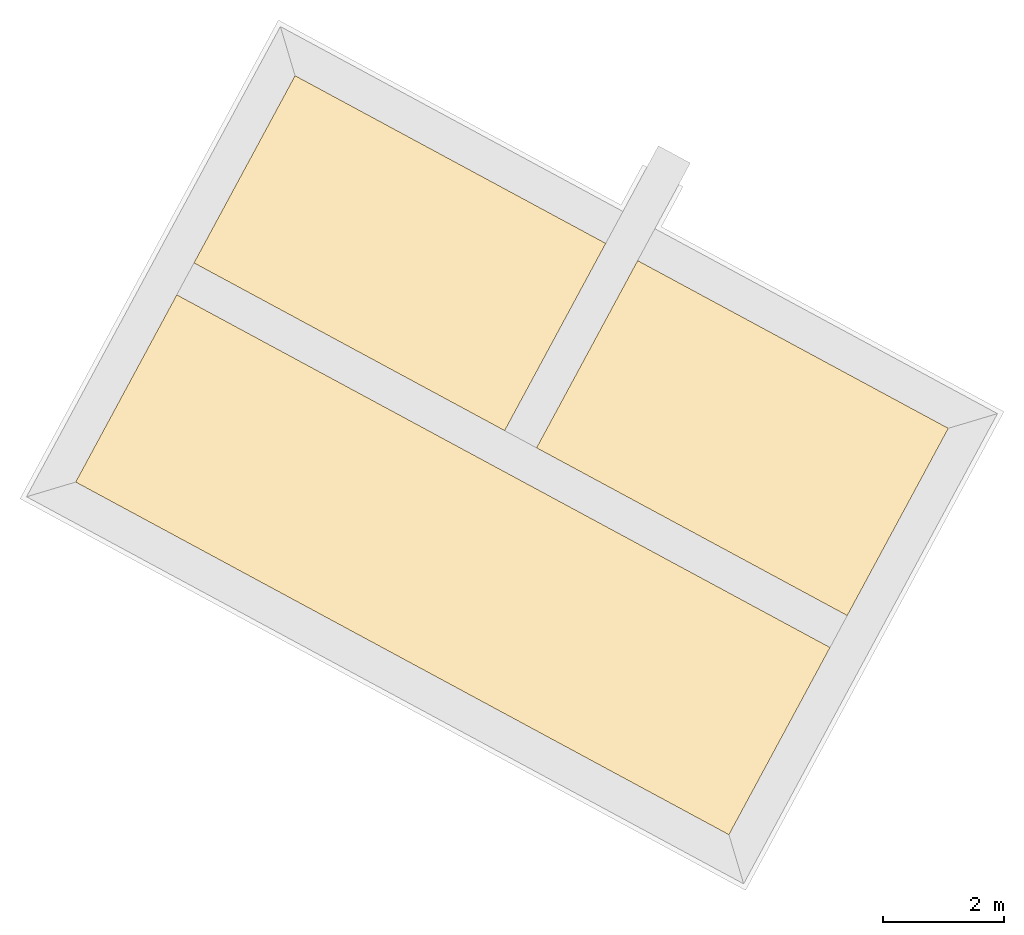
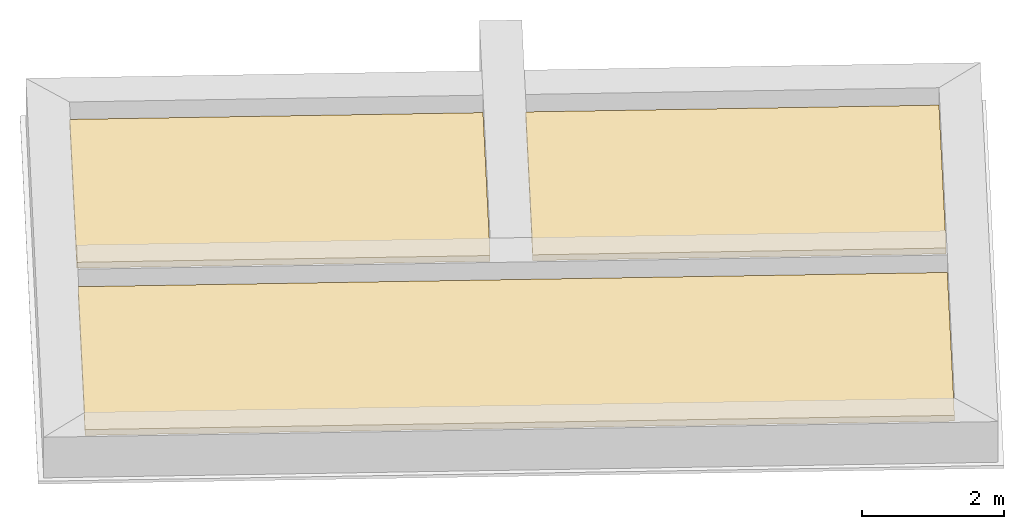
# One storey, part 3 of 3: 3 coverings.
"""IFC2X3 building model written with IfcOpenShell, lengths in metres."""

from ifc_helpers import new_model, entity, si_unit, converted_unit, derived_unit, money_unit, direction, frame, origin_with_axes, place, context, subcontext, project, spatial, faceted_brep, material, type_object, element, save


model = new_model("IFC2X3")

# Units and contexts
model_context = context("Model", 3, precision=1e-05, world=origin_with_axes(), true_north=direction((0.0, 1.0)))
body_context = subcontext(model_context, "Body", "Model", "MODEL_VIEW")
ifc_project = project(units=[si_unit("LENGTHUNIT", "METRE"), si_unit("AREAUNIT", "SQUARE_METRE"), si_unit("VOLUMEUNIT", "CUBIC_METRE"), converted_unit("PLANEANGLEUNIT", "DEGREE", entity("IfcPlaneAngleMeasure", 0.0174532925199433), si_unit("PLANEANGLEUNIT", "RADIAN"), dimensions=[0, 0, 0, 0, 0, 0, 0]), money_unit("EUR"), converted_unit("TIMEUNIT", "Year", entity("IfcTimeMeasure", 31556926.0), si_unit("TIMEUNIT", "SECOND"), dimensions=[0, 0, 1, 0, 0, 0, 0]), si_unit("MASSUNIT", "GRAM", prefix="KILO"), si_unit("THERMODYNAMICTEMPERATUREUNIT", "DEGREE_CELSIUS"), si_unit("LUMINOUSINTENSITYUNIT", "LUMEN"), si_unit("ENERGYUNIT", "JOULE", prefix="MEGA"), derived_unit("THERMALCONDUCTANCEUNIT", [(si_unit("POWERUNIT", "WATT"), 1), (si_unit("LENGTHUNIT", "METRE"), -1), (si_unit("THERMODYNAMICTEMPERATUREUNIT", "KELVIN"), -1)]), derived_unit("SPECIFICHEATCAPACITYUNIT", [(si_unit("ENERGYUNIT", "JOULE"), 1), (si_unit("MASSUNIT", "GRAM", prefix="KILO"), -1), (si_unit("THERMODYNAMICTEMPERATUREUNIT", "KELVIN"), -1)]), derived_unit("MASSDENSITYUNIT", [(si_unit("MASSUNIT", "GRAM", prefix="KILO"), 1), (si_unit("VOLUMEUNIT", "CUBIC_METRE"), -1)])], contexts=[model_context])

# Site, building, storey
site_placement = place(None, frame((-3.949935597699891, 1.740105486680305, 0.0), z_axis=(0.0, 0.0, 1.0), x_axis=(0.8799804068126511, -0.475009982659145, 0.0)))
site = spatial("IfcSite", under=ifc_project, at=site_placement, Name="Gelände", CompositionType="ELEMENT")
building_placement = place(site_placement, origin_with_axes())
building = spatial("IfcBuilding", under=site, at=building_placement, Name="Gebäude", CompositionType="ELEMENT")
storey_placement = place(building_placement, frame((0.0, 0.0, -3.68), z_axis=(0.0, 0.0, 1.0), x_axis=(1.0, 0.0, 0.0)))
storey = spatial("IfcBuildingStorey", under=building, at=storey_placement, Name="Gründung", CompositionType="ELEMENT", Elevation=-3.68)

# Coverings
ifc_material = material(Name="_SIWH - Dämmung, Perimeterdämmung")
covering_type = type_object("IfcCoveringType", Name="_SIWH - BO | Perimeterdämmung 10 | 10cm 100", PredefinedType="NOTDEFINED")
covering_1_placement = place(storey_placement, frame((4.632528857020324, 15.22906061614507, 0.3999999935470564), z_axis=(0.0, 0.0, 1.0), x_axis=(1.0, 0.0, 0.0)))
element("IfcCovering", 1, at=covering_1_placement, inside=storey, type_object=covering_type, material=ifc_material, Name="Decke035", PredefinedType="NOTDEFINED", context=body_context, shape_type="Brep", body=[
    faceted_brep([(0.0, 0.0, 0.0), (0.0, 0.0, -0.1000000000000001), (5.842477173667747, 0.0, -0.1000000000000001), (5.842477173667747, 0.0, 0.0), (0.0, 3.521259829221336, 0.0), (0.0, 3.521259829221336, -0.1000000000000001), (5.842477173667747, 3.521259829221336, -0.1000000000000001), (5.842477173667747, 3.521259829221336, 0.0)], [[[0, 1, 2, 3]], [[4, 5, 1, 0]], [[2, 1, 5, 6]], [[3, 2, 6, 7]], [[4, 0, 3, 7]], [[7, 6, 5, 4]]]),
])
covering_2_placement = place(storey_placement, frame((11.0750060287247, 15.22906056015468, 0.3999999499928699), z_axis=(0.0, 0.0, 1.0), x_axis=(1.0, 0.0, 0.0)))
element("IfcCovering", 2, at=covering_2_placement, inside=storey, type_object=covering_type, material=ifc_material, Name="Decke034", PredefinedType="NOTDEFINED", context=body_context, shape_type="Brep", body=[
    faceted_brep([(0.0, 0.0, 0.0), (0.0, 0.0, -0.1000000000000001), (5.842477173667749, 0.0, -0.1000000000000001), (5.842477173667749, 0.0, 0.0), (0.0, 3.521259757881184, 0.0), (0.0, 3.521259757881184, -0.1000000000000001), (5.842477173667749, 3.521259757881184, -0.1000000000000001), (5.842477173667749, 3.521259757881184, 0.0)], [[[0, 1, 2, 3]], [[4, 5, 1, 0]], [[2, 1, 5, 6]], [[3, 2, 6, 7]], [[4, 0, 3, 7]], [[7, 6, 5, 4]]]),
])
covering_3_placement = place(storey_placement, frame((4.632528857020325, 11.1078007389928, 0.3999999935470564), z_axis=(0.0, 0.0, 1.0), x_axis=(1.0, 0.0, 0.0)))
element("IfcCovering", 3, at=covering_3_placement, inside=storey, type_object=covering_type, material=ifc_material, Name="Decke033", PredefinedType="NOTDEFINED", context=body_context, shape_type="Brep", body=[
    faceted_brep([(0.0, 0.0, 0.0), (0.0, 0.0, -0.1000000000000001), (12.2849543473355, 0.0, -0.1000000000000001), (12.2849543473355, 0.0, 0.0), (0.0, 3.521259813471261, 0.0), (0.0, 3.521259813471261, -0.1000000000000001), (12.2849543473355, 3.521259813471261, -0.1000000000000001), (12.2849543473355, 3.521259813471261, 0.0)], [[[0, 1, 2, 3]], [[4, 5, 1, 0]], [[2, 1, 5, 6]], [[3, 2, 6, 7]], [[4, 0, 3, 7]], [[7, 6, 5, 4]]]),
])

save(model, "model.ifc")
